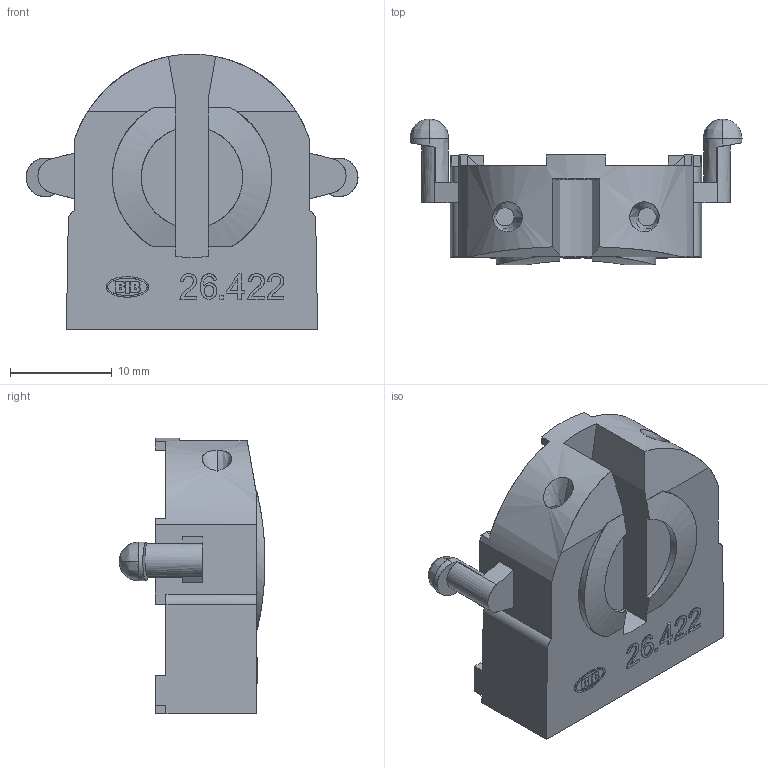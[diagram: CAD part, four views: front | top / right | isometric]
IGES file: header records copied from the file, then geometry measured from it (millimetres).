
Start section: Comment
Global section: file name: 00B-22E-07.igs; native system:  By Spatial Corp.; preprocessor: XPlus GENERIC/IGES 3.0; author: Author; organization: Title; date: 20070620.071220; units: inch
Bounding box: 32.7 x 14.38 x 27.12 mm (x, y, z)
Surface area: 2958.8 mm2 (no closed solid volume)
Topology: 0 solids, 0 shells, 292 faces, 1618 edges, 1610 vertices
Faces by surface type: bspline 292
